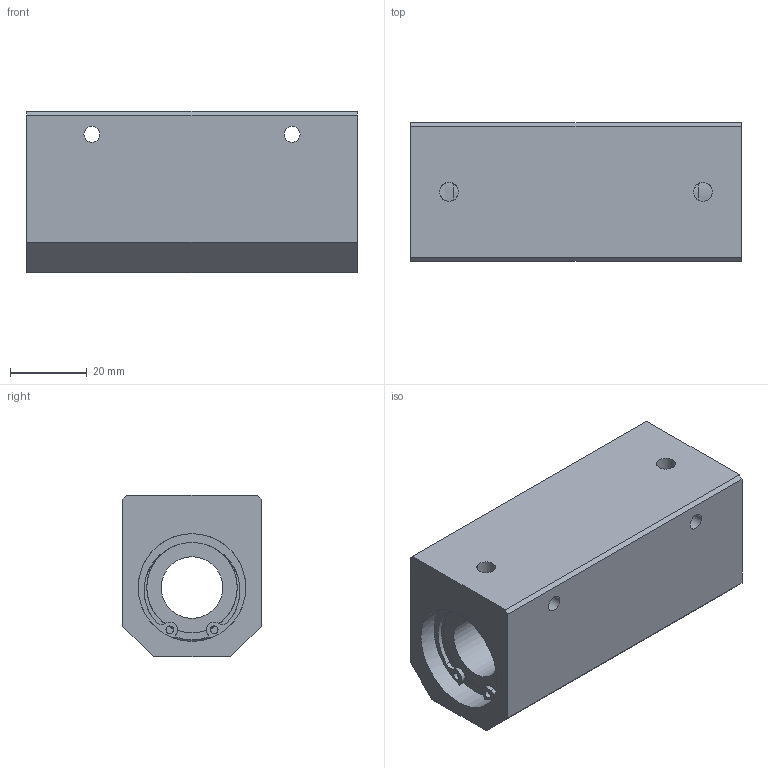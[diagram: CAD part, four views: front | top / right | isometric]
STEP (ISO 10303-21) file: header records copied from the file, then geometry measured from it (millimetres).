
FILE_DESCRIPTION((''),'2;1');
FILE_NAME('D:\製品 (図面)\カタログ用3D\リニアベアリング関連(改)\STEP形式\CHW\CHW16.stp','2010-01-25T09:40:30',('Tsuchiya'),(''),'Autodesk Inventor 10','Autodesk Inventor 10','');
FILE_SCHEMA(('AUTOMOTIVE_DESIGN { 1 0 10303 214 1 1 1 1 }'));
Length unit declared in the file: millimetre
Products named in the file (1): CHW16
Bounding box: 86 x 36 x 42 mm (x, y, z)
Volume: 100137.3 mm3; surface area: 23932.9 mm2
Topology: 1 solids, 4 shells, 90 faces, 223 edges, 139 vertices
Faces by surface type: bspline 40, plane 28, cylinder 20, torus 2
Full cylindrical faces by diameter (mm): 2 x2, 16 x1, 23.5 x2, 26.6 x2, 28 x7
Entity records: 2878 total; most frequent: CARTESIAN_POINT 974, DIRECTION 384, ORIENTED_EDGE 346, EDGE_CURVE 173, AXIS2_PLACEMENT_3D 166, EDGE_LOOP 148, VERTEX_POINT 121, CIRCLE 115
